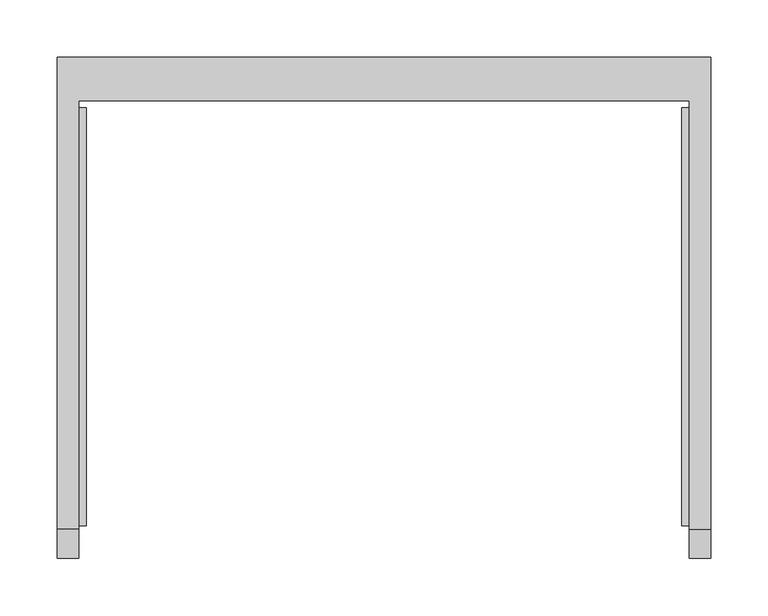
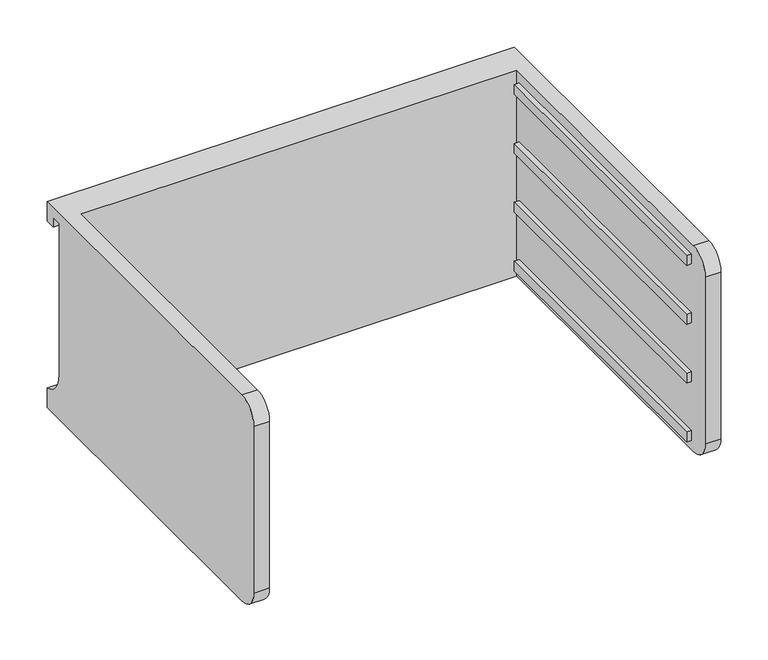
"""IFC4 building model written with IfcOpenShell, lengths in millimetres: furniture geometry."""

from ifc_helpers import new_model, si_unit, frame, origin, place, context, project, spatial, polyline, circle_curve, outline, extrude, source, transform, mapped, element, save
from ifc_brep_helpers import plane_surface, cylinder_surface, revolved_surface, advanced_brep


def furniture_bde3683d(model_context):
    return source(origin(), model_context, "Body", "SolidModel", [
        advanced_brep(
        [(-171.7622951, -331.6523397, 474.49232), (-171.7622951, -357.0523397, 449.09232), (-171.7622951, -357.0523397, 233.19232), (-171.7622951, -331.6523397, 207.79232), (-171.7622951, 43.0421197, 207.79232), (-171.7622951, 43.0421197, 474.49232), (-190.8122951, -331.6523397, 207.79232), (-190.8122951, -357.0523397, 233.19232), (-190.8122951, -357.0523397, 449.09232), (-190.8122951, -331.6523397, 474.49232), (-190.8122951, 81.0976603, 474.49232), (-190.8122951, 81.0976603, 449.09232), (-190.8122951, 68.4421197, 449.09232), (-190.8122951, 68.4421197, 461.79232), (-190.8122951, 55.7421197, 461.79232), (-190.8122951, 55.7421197, 265.73734), (-190.8122951, 81.0976603, 233.19232), (-190.8122951, 81.0976603, 207.79232), (380.6877049, 81.0976603, 207.79232), (380.6877049, -331.6523397, 207.79232), (361.6377049, -331.6523397, 207.79232), (361.6377049, 43.0421197, 207.79232), (361.6377049, 43.0421197, 474.49232), (361.6377049, -331.6523397, 474.49232), (380.6877049, -331.6523397, 474.49232), (380.6877049, 81.0976603, 474.49232), (380.6877049, 81.0976603, 233.19232), (380.6877049, 55.7421197, 265.73734), (380.6877049, 55.7421197, 461.79232), (380.6877049, 68.4421197, 461.79232), (380.6877049, 68.4421197, 449.09232), (380.6877049, 81.0976603, 449.09232), (380.6877049, -357.0523397, 449.09232), (380.6877049, -357.0523397, 233.19232), (361.6377049, -357.0523397, 233.19232), (361.6377049, -357.0523397, 449.09232)],
        [
            (0, 1, circle_curve(frame((-171.7622951, -331.6523397, 449.09232), z_axis=(1.0, 0.0, 0.0), x_axis=(0.0, 0.0, 1.0)), 25.4)),
            (1, 2),
            (2, 3, circle_curve(frame((-171.7622951, -331.6523397, 233.19232), z_axis=(1.0, 0.0, 0.0), x_axis=(0.0, 0.0, 1.0)), 25.4)),
            (3, 4),
            (4, 5),
            (5, 0),
            (6, 7, circle_curve(frame((-190.8122951, -331.6523397, 233.19232), z_axis=(-1.0, 0.0, 0.0), x_axis=(0.0, 0.0, 1.0)), 25.4)),
            (7, 8),
            (8, 9, circle_curve(frame((-190.8122951, -331.6523397, 449.09232), z_axis=(-1.0, 0.0, 0.0), x_axis=(0.0, 0.0, 1.0)), 25.4)),
            (9, 10),
            (10, 11),
            (11, 12),
            (12, 13),
            (13, 14),
            (14, 15),
            (15, 16, circle_curve(frame((-190.8122951, 89.3064162, 265.73734), z_axis=(1.0, 0.0, 0.0), x_axis=(0.0, 0.0, 1.0)), 33.5642965)),
            (16, 17),
            (17, 6),
            (0, 9),
            (8, 1),
            (7, 2),
            (6, 3),
            (17, 18),
            (18, 19),
            (19, 20),
            (20, 21),
            (21, 4),
            (5, 22),
            (22, 23),
            (23, 24),
            (24, 25),
            (25, 10),
            (18, 26),
            (26, 27, circle_curve(frame((380.6877049, 89.3064162, 265.73734), z_axis=(-1.0, 0.0, 0.0), x_axis=(0.0, 0.0, 1.0)), 33.5642965)),
            (27, 28),
            (28, 29),
            (29, 30),
            (30, 31),
            (31, 25),
            (24, 32, circle_curve(frame((380.6877049, -331.6523397, 449.09232), z_axis=(1.0, 0.0, 0.0), x_axis=(0.0, 0.0, 1.0)), 25.4)),
            (32, 33),
            (33, 19, circle_curve(frame((380.6877049, -331.6523397, 233.19232), z_axis=(1.0, 0.0, 0.0), x_axis=(0.0, 0.0, 1.0)), 25.4)),
            (16, 26),
            (15, 27),
            (14, 28),
            (13, 29),
            (12, 30),
            (11, 31),
            (21, 22),
            (20, 34, circle_curve(frame((361.6377049, -331.6523397, 233.19232), z_axis=(-1.0, 0.0, 0.0), x_axis=(0.0, 0.0, 1.0)), 25.4)),
            (34, 35),
            (35, 23, circle_curve(frame((361.6377049, -331.6523397, 449.09232), z_axis=(-1.0, 0.0, 0.0), x_axis=(0.0, 0.0, 1.0)), 25.4)),
            (35, 32),
            (34, 33),
        ],
        [
            plane_surface(frame((-171.7622951, -331.6523397, 474.49232), z_axis=(1.0, 0.0, 0.0), x_axis=(0.0, -1.0, 0.0))),
            plane_surface(frame((-190.8122951, -331.6523397, 474.49232), z_axis=(-1.0, 0.0, 0.0), x_axis=(0.0, 1.0, 0.0))),
            cylinder_surface(frame((-190.8122951, -331.6523397, 449.09232), z_axis=(1.0, 0.0, 0.0), x_axis=(0.0, 0.0, 1.0)), 25.4),
            plane_surface(frame((-171.7622951, -357.0523397, 449.09232), z_axis=(0.0, -1.0, 0.0), x_axis=(-1.0, 0.0, 0.0))),
            cylinder_surface(frame((-190.8122951, -331.6523397, 233.19232), z_axis=(1.0, 0.0, 0.0), x_axis=(0.0, 0.0, 1.0)), 25.4),
            plane_surface(frame((-171.7622951, -331.6523397, 207.79232), z_axis=(0.0, 0.0, -1.0), x_axis=(-1.0, 0.0, 0.0))),
            plane_surface(frame((-171.7622951, 43.0421197, 474.49232), z_axis=(0.0, 0.0, 1.0), x_axis=(-1.0, 0.0, 0.0))),
            plane_surface(frame((380.6877049, 81.0976603, 233.19232), z_axis=(1.0, 0.0, 0.0), x_axis=(0.0, 0.0, 1.0))),
            plane_surface(frame((380.6877049, 81.0976603, 207.79232), z_axis=(0.0, 1.0, 0.0), x_axis=(-1.0, 0.0, 0.0))),
            revolved_surface(polyline([(-190.8122951, 89.3064162, 299.30163650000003), (380.68770489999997, 89.3064162, 299.30163650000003)]), (-190.8122951, 89.3064162, 265.73734), (-1.0, 0.0, 0.0)),
            plane_surface(frame((380.6877049, 55.7421197, 265.73734), z_axis=(0.0, 1.0, 0.0), x_axis=(-1.0, 0.0, 0.0))),
            plane_surface(frame((380.6877049, 55.7421197, 461.79232), z_axis=(0.0, 0.0, -1.0), x_axis=(-1.0, 0.0, 0.0))),
            plane_surface(frame((380.6877049, 68.4421197, 461.79232), z_axis=(0.0, -1.0, 0.0), x_axis=(-1.0, 0.0, 0.0))),
            plane_surface(frame((380.6877049, 68.4421197, 449.09232), z_axis=(0.0, 0.0, -1.0), x_axis=(-1.0, 0.0, 0.0))),
            plane_surface(frame((380.6877049, 81.0976603, 449.09232), z_axis=(0.0, 1.0, 0.0), x_axis=(-1.0, 0.0, 0.0))),
            plane_surface(frame((380.6877049, 43.0421197, 474.49232), z_axis=(0.0, -1.0, 0.0), x_axis=(-1.0, 0.0, 0.0))),
            plane_surface(frame((361.6377049, -331.6523397, 474.49232), z_axis=(-1.0, 0.0, 0.0), x_axis=(0.0, 1.0, 0.0))),
            cylinder_surface(frame((361.6377049, -331.6523397, 449.09232), z_axis=(1.0, 0.0, 0.0), x_axis=(0.0, 0.0, 1.0)), 25.4),
            plane_surface(frame((380.6877049, -357.0523397, 449.09232), z_axis=(0.0, -1.0, 0.0), x_axis=(-1.0, 0.0, 0.0))),
            cylinder_surface(frame((361.6377049, -331.6523397, 233.19232), z_axis=(1.0, 0.0, 0.0), x_axis=(0.0, 0.0, 1.0)), 25.4),
        ],
        [
            (0, [[1, 2, 3, 4, 5, 6]]),
            (1, [[7, 8, 9, 10, 11, 12, 13, 14, 15, 16, 17, 18]]),
            (2, [[-1, 19, -9, 20]]),
            (3, [[-2, -20, -8, 21]]),
            (4, [[-3, -21, -7, 22]]),
            (5, [[-4, -22, -18, 23, 24, 25, 26, 27]]),
            (6, [[-6, 28, 29, 30, 31, 32, -10, -19]]),
            (7, [[-24, 33, 34, 35, 36, 37, 38, 39, -31, 40, 41, 42]]),
            (8, [[-33, -23, -17, 43]]),
            (9, [[-34, -43, -16, 44]]),
            (10, [[-35, -44, -15, 45]]),
            (11, [[-36, -45, -14, 46]]),
            (12, [[-37, -46, -13, 47]]),
            (13, [[-38, -47, -12, 48]]),
            (14, [[-39, -48, -11, -32]]),
            (15, [[-5, -27, 49, -28]]),
            (16, [[-29, -49, -26, 50, 51, 52]]),
            (17, [[-40, -30, -52, 53]]),
            (18, [[-41, -53, -51, 54]]),
            (19, [[-42, -54, -50, -25]]),
        ],
    ),
        extrude(outline(polyline([(355.2877049, -328.4773397), (355.2877049, 36.6921197), (361.6377049, 36.6921197), (361.6377049, -328.4773397), (355.2877049, -328.4773397)])), frame((0.0, 0.0, 296.69232), z_axis=(0.0, 0.0, 1.0), x_axis=(1.0, 0.0, 0.0)), (0.0, 0.0, 1.0), 12.7),
        extrude(outline(polyline([(355.2877049, -328.4773397), (355.2877049, 36.6921197), (361.6377049, 36.6921197), (361.6377049, -328.4773397), (355.2877049, -328.4773397)])), frame((0.0, 0.0, 372.89232), z_axis=(0.0, 0.0, 1.0), x_axis=(1.0, 0.0, 0.0)), (0.0, 0.0, 1.0), 12.7),
        extrude(outline(polyline([(355.2877049, -328.4773397), (355.2877049, 36.6921197), (361.6377049, 36.6921197), (361.6377049, -328.4773397), (355.2877049, -328.4773397)])), frame((0.0, 0.0, 449.09232), z_axis=(0.0, 0.0, 1.0), x_axis=(1.0, 0.0, 0.0)), (0.0, 0.0, 1.0), 12.7),
        extrude(outline(polyline([(355.2877049, -328.4773397), (355.2877049, 36.6921197), (361.6377049, 36.6921197), (361.6377049, -328.4773397), (355.2877049, -328.4773397)])), frame((0.0, 0.0, 220.49232), z_axis=(0.0, 0.0, 1.0), x_axis=(1.0, 0.0, 0.0)), (0.0, 0.0, 1.0), 12.7),
        extrude(outline(polyline([(-171.7622951, -328.4773397), (-171.7622951, 36.6921197), (-165.4122951, 36.6921197), (-165.4122951, -328.4773397), (-171.7622951, -328.4773397)])), frame((0.0, 0.0, 296.69232), z_axis=(0.0, 0.0, 1.0), x_axis=(1.0, 0.0, 0.0)), (0.0, 0.0, 1.0), 12.7),
        extrude(outline(polyline([(-171.7622951, -328.4773397), (-171.7622951, 36.6921197), (-165.4122951, 36.6921197), (-165.4122951, -328.4773397), (-171.7622951, -328.4773397)])), frame((0.0, 0.0, 372.89232), z_axis=(0.0, 0.0, 1.0), x_axis=(1.0, 0.0, 0.0)), (0.0, 0.0, 1.0), 12.7),
        extrude(outline(polyline([(-171.7622951, -328.4773397), (-171.7622951, 36.6921197), (-165.4122951, 36.6921197), (-165.4122951, -328.4773397), (-171.7622951, -328.4773397)])), frame((0.0, 0.0, 449.09232), z_axis=(0.0, 0.0, 1.0), x_axis=(1.0, 0.0, 0.0)), (0.0, 0.0, 1.0), 12.7),
        extrude(outline(polyline([(-171.7622951, -328.4773397), (-171.7622951, 36.6921197), (-165.4122951, 36.6921197), (-165.4122951, -328.4773397), (-171.7622951, -328.4773397)])), frame((0.0, 0.0, 220.49232), z_axis=(0.0, 0.0, 1.0), x_axis=(1.0, 0.0, 0.0)), (0.0, 0.0, 1.0), 12.7),
    ])


if __name__ == "__main__":
    model = new_model("IFC4")
    model_context = context("Model", 3, world=origin())
    ifc_project = project(units=[si_unit("LENGTHUNIT", "METRE", prefix="MILLI")], contexts=[model_context])
    site = spatial("IfcSite", under=ifc_project)
    building = spatial("IfcBuilding", under=site)
    placement = place(None, origin())
    furniture_shape = furniture_bde3683d(model_context)
    element("IfcFurniture", 1, ObjectType="HermanMiller_CoStruc_CO205_CFrame : 10\"H x 17\"D x 22\"W", at=placement, inside=building, context=model_context, shape_type="MappedRepresentation", body=[
        mapped(furniture_shape, transform((0.0, 0.0, 0.0), x_axis=(1.0, 0.0, 0.0), y_axis=(0.0, 1.0, 0.0), z_axis=(0.0, 0.0, 1.0))),
    ])
    save(model, "model.ifc")
